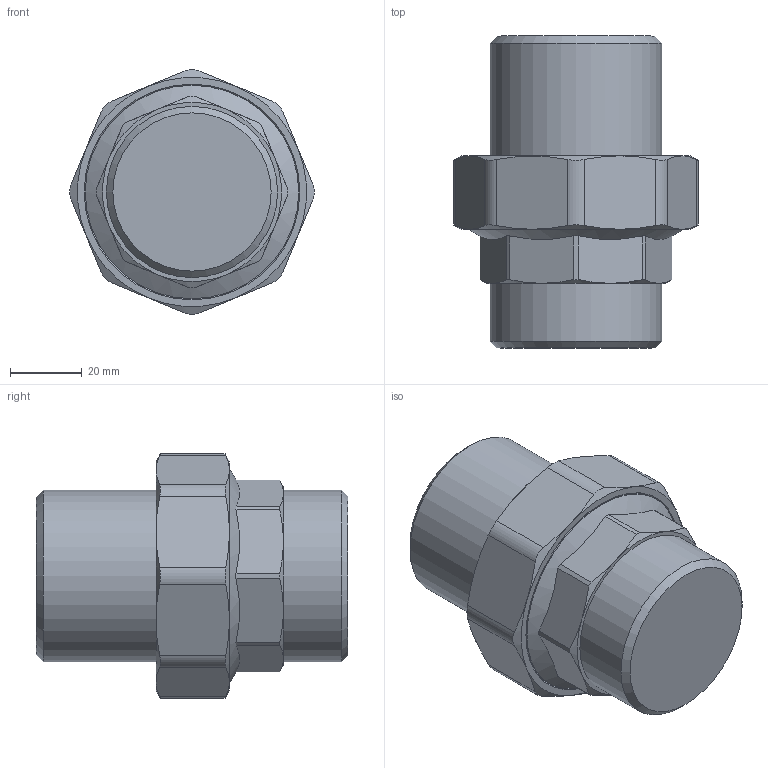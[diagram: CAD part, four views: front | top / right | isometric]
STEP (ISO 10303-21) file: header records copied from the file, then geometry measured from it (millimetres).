
FILE_DESCRIPTION(('STEP AP203'), '1');
FILE_NAME('覆.302612.029.000 捘 - VTr.728.N.0008', '2024-07-19T07:30:02', ('Boss'), (''), 'C3D Converter', 'C3D Toolkit', '');
FILE_SCHEMA(('CONFIG_CONTROL_DESIGN'));
Length unit declared in the file: millimetre
Products named in the file (1): ВР.302612.029.000 СБ
Bounding box: 68.28 x 87.1 x 68.28 mm (x, y, z)
Volume: 193082.8 mm3; surface area: 21728.6 mm2
Topology: 1 solids, 1 shells, 70 faces, 165 edges, 101 vertices
Faces by surface type: cone 28, plane 22, cylinder 20
Full cylindrical faces by diameter (mm): 47.803 x2, 48.5 x1, 59.614 x1
Entity records: 3699 total; most frequent: CARTESIAN_POINT 2311, ORIENTED_EDGE 288, DIRECTION 256, EDGE_CURVE 144, AXIS2_PLACEMENT_3D 112, VERTEX_POINT 95, EDGE_LOOP 77, B_SPLINE_CURVE_WITH_KNOTS 65
